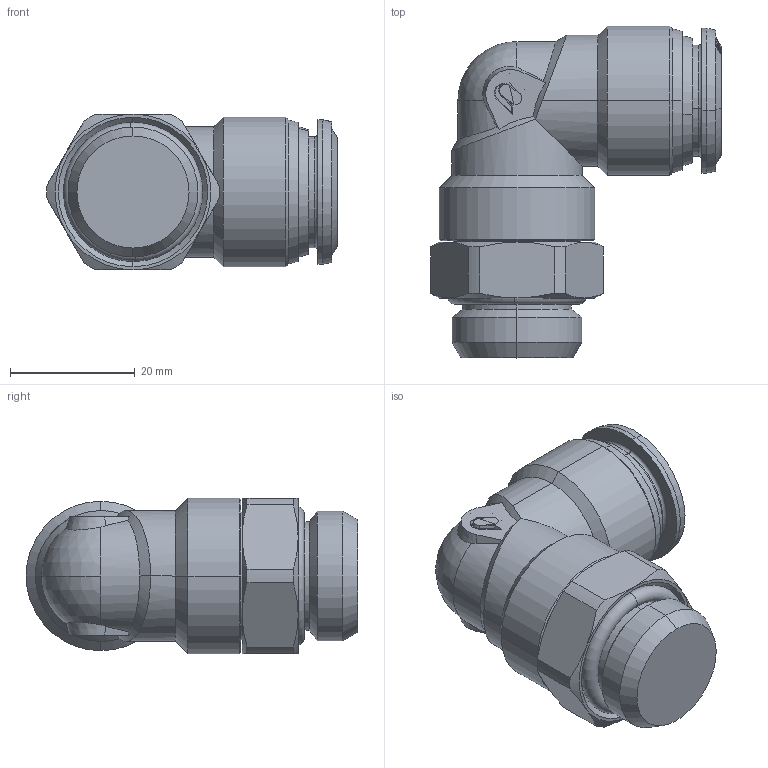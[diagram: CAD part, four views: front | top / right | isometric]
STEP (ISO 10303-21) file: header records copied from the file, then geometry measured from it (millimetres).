
FILE_DESCRIPTION (( 'STEP AP214' ), '1' );
FILE_NAME ('5011600032A.STEP', '2023-11-02T10:57:43', ( '' ), ( '' ), 'SwSTEP 2.0', 'SolidWorks 2020', '' );
FILE_SCHEMA (( 'AUTOMOTIVE_DESIGN' ));
Length unit declared in the file: millimetre
Products named in the file (1): 5011600032A
Bounding box: 46.65 x 53.3 x 25 mm (x, y, z)
Volume: 23783 mm3; surface area: 8181.3 mm2
Topology: 1 solids, 1 shells, 175 faces, 417 edges, 261 vertices
Faces by surface type: cone 56, bspline 44, plane 41, cylinder 28, torus 4, sphere 2
Entity records: 8048 total; most frequent: CARTESIAN_POINT 4304, ORIENTED_EDGE 834, DIRECTION 652, EDGE_CURVE 417, VERTEX_POINT 261, AXIS2_PLACEMENT_3D 251, EDGE_LOOP 192, ADVANCED_FACE 175
